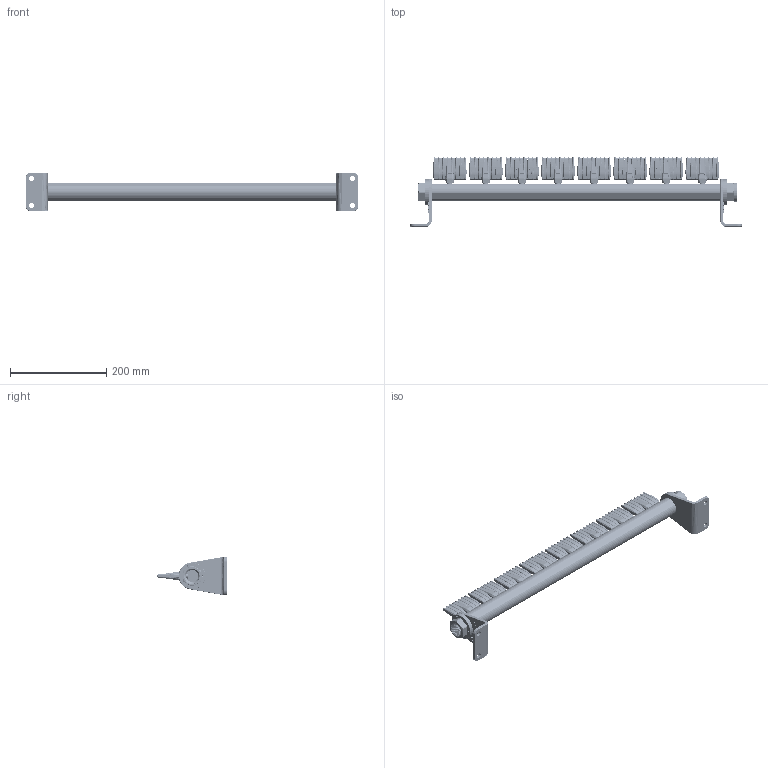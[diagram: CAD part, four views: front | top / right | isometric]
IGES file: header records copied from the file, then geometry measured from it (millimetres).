
Start section: SolidWorks IGES file using analytic representation for surfaces
Global section: file name: G:\SILVENT AB\ENGINEERING\Drawings\WEB CAD\CAD\388W-S.IGS; native system: SolidWorks 2021; preprocessor: SolidWorks 2021; author: p.jaasko; date: 241016.143351; units: millimetre
Bounding box: 690 x 144.5 x 80 mm (x, y, z)
Surface area: 276146 mm2 (no closed solid volume)
Topology: 0 solids, 0 shells, 10972 faces, 71108 edges, 70804 vertices
Faces by surface type: bspline 6444, revolution 4528
